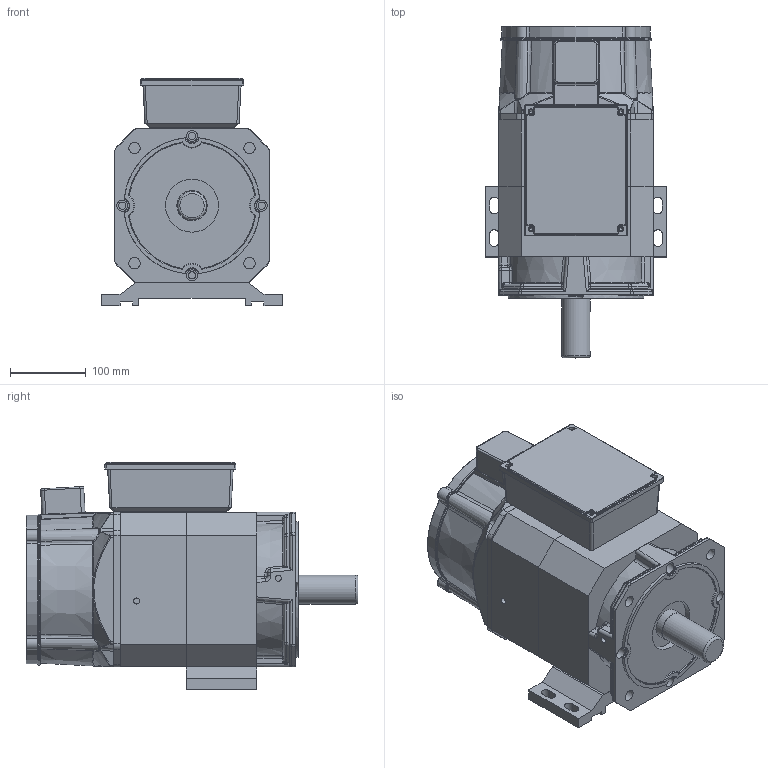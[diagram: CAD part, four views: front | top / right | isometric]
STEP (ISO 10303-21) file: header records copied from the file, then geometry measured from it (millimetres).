
FILE_DESCRIPTION(/* description */ (''),/* implementation_level */ '2;1');
FILE_NAME(/* name */ '204ZJY-4-2.2-15.stp',/* time_stamp */ '2024-01-15T16:55:10+08:00',/* author */ (''),/* organization */ (''),/* preprocessor_version */ 'ST-DEVELOPER v18.1',/* originating_system */ 'SIEMENS PLM Software NX 2000',/* authorisation */ '');
FILE_SCHEMA (('AUTOMOTIVE_DESIGN { 1 0 10303 214 3 1 1 1 }'));
Products named in the file (1): 204ZJY-4-2.2-15电机外形图
Bounding box: 240 x 438 x 300 mm (x, y, z)
Volume: 9145986.3 mm3; surface area: 1022821.1 mm2
Topology: 10 solids, 10 shells, 1906 faces, 4761 edges, 2835 vertices
Faces by surface type: cylinder 751, torus 447, plane 385, bspline 248, cone 63, sphere 12
Full cylindrical faces by diameter (mm): 4 x10, 5 x10, 6 x10, 6.5 x4, 7 x8, 7.5 x4, 8 x4, 9.5 x8, 11 x8, 13.5 x2, 14.5 x4, 15 x5, 28 x1, 38 x1, 39.8 x1, 40 x1, 70 x1, 187 x1
Entity records: 63129 total; most frequent: CARTESIAN_POINT 22071, ORIENTED_EDGE 9082, DIRECTION 7651, EDGE_CURVE 4541, AXIS2_PLACEMENT_3D 3196, VERTEX_POINT 2776, EDGE_LOOP 2167, ADVANCED_FACE 1906
